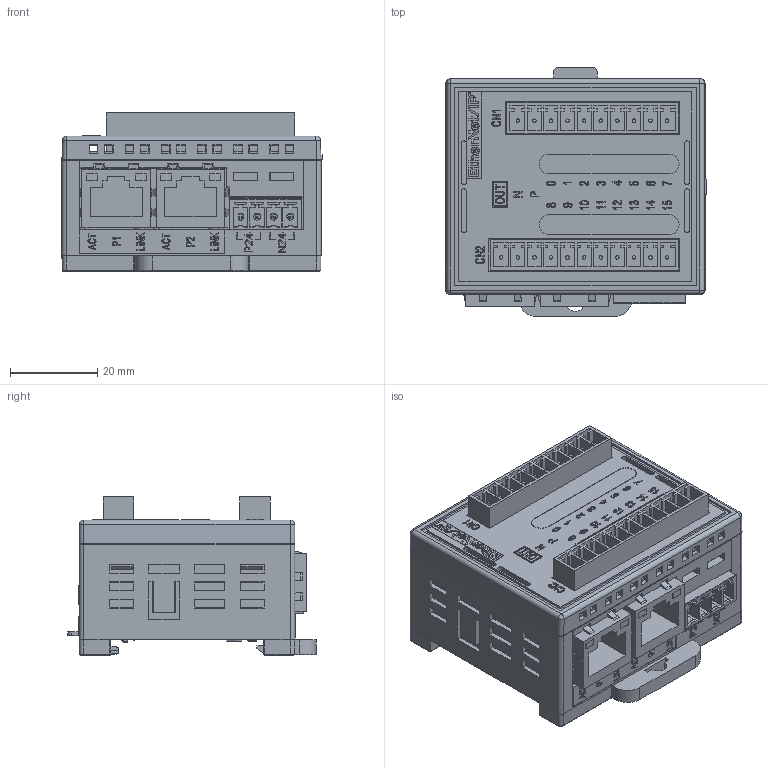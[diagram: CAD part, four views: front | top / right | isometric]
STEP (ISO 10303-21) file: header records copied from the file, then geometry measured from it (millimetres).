
FILE_DESCRIPTION((''),'2;1');
FILE_NAME('EICBP0F','2026-05-11T14:55:57',('gijyu181'),(''),'CREO PARAMETRIC BY PTC INC, 2018050','CREO PARAMETRIC BY PTC INC, 2018050','');
FILE_SCHEMA(('CONFIG_CONTROL_DESIGN','SHAPE_APPEARANCE_LAYERS_GROUPS'));
Products named in the file (1): EICBP0F
Bounding box: 59.75 x 57.15 x 36.3 mm (x, y, z)
Volume: 68583.2 mm3; surface area: 40803.5 mm2
Topology: 1 solids, 17 shells, 6058 faces, 16751 edges, 11061 vertices
Faces by surface type: plane 4415, extrusion 779, cylinder 728, sphere 44, cone 42, torus 26, bspline 24
Entity records: 243978 total; most frequent: CARTESIAN_POINT 43236, ORIENTED_EDGE 33466, DIRECTION 27631, EDGE_CURVE 16737, VECTOR 14151, LINE 13372, VERTEX_POINT 11061, PRESENTATION_STYLE_ASSIGNMENT 9620
